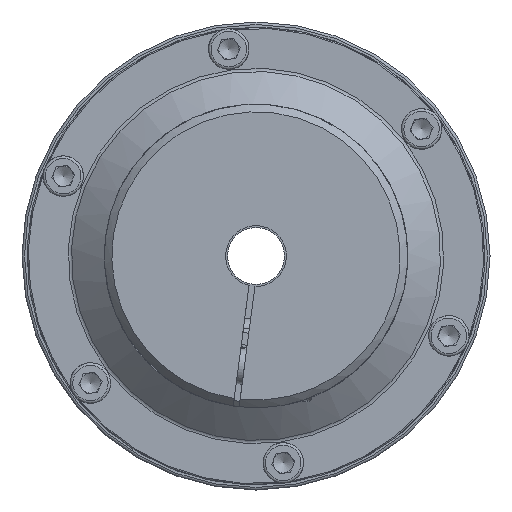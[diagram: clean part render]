
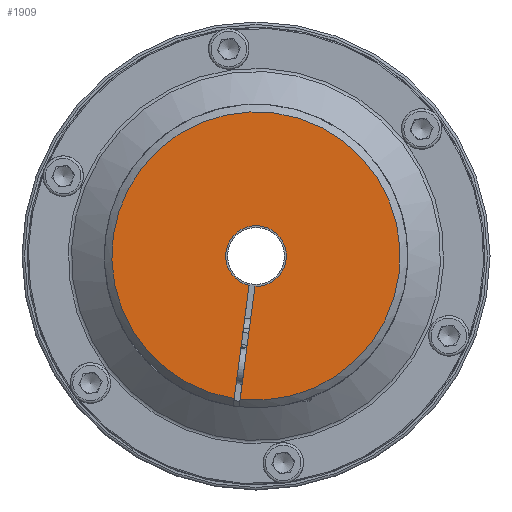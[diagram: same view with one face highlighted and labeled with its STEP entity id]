
A CAD part, left-side view. The second image highlights one B-rep face of the part: STEP entity #1909.
In plain terms, the highlighted planar face has unit normal (-1, 0, 0).
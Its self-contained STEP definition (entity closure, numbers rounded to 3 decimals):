
#1909 = ADVANCED_FACE( '', ( #4106 ), #4107, .T. );
#4106 = FACE_OUTER_BOUND( '', #6646, .T. );
#4107 = PLANE( '', #6647 );
#6646 = EDGE_LOOP( '', ( #12247, #12248, #12249, #12250 ) );
#6647 = AXIS2_PLACEMENT_3D( '', #12251, #12252, #12253 );
#12247 = ORIENTED_EDGE( '', *, *, #13937, .T. );
#12248 = ORIENTED_EDGE( '', *, *, #14207, .T. );
#12249 = ORIENTED_EDGE( '', *, *, #13685, .T. );
#12250 = ORIENTED_EDGE( '', *, *, #14564, .F. );
#12251 = CARTESIAN_POINT( '', ( -77.85, -11.897, -1.566 ) );
#12252 = DIRECTION( '', ( -1., 0., 0. ) );
#12253 = DIRECTION( '', ( 0., 0., 1. ) );
#13685 = EDGE_CURVE( '', #16695, #16696, #16697, .T. );
#13937 = EDGE_CURVE( '', #17053, #17051, #17054, .T. );
#14207 = EDGE_CURVE( '', #17051, #16695, #17430, .T. );
#14564 = EDGE_CURVE( '', #17053, #16696, #17874, .T. );
#16695 = VERTEX_POINT( '', #23930 );
#16696 = VERTEX_POINT( '', #23931 );
#16697 = LINE( '', #23932, #23933 );
#17051 = VERTEX_POINT( '', #25109 );
#17053 = VERTEX_POINT( '', #25112 );
#17054 = LINE( '', #25113, #25114 );
#17430 = CIRCLE( '', #26081, 57. );
#17874 = CIRCLE( '', #27445, 12. );
#23930 = CARTESIAN_POINT( '', ( -77.85, 8.628, -56.343 ) );
#23931 = CARTESIAN_POINT( '', ( -77.85, 2.748, -11.681 ) );
#23932 = CARTESIAN_POINT( '', ( -77.85, 9.236, -60.958 ) );
#23933 = VECTOR( '', #29517, 1000. );
#25109 = CARTESIAN_POINT( '', ( -77.85, 6.29, -56.652 ) );
#25112 = CARTESIAN_POINT( '', ( -77.85, 0.411, -11.993 ) );
#25113 = CARTESIAN_POINT( '', ( -77.85, 0.371, -11.693 ) );
#25114 = VECTOR( '', #29791, 1000. );
#26081 = AXIS2_PLACEMENT_3D( '', #30140, #30141, #30142 );
#27445 = AXIS2_PLACEMENT_3D( '', #30524, #30525, #30526 );
#29517 = DIRECTION( '', ( 0., -0.131, 0.991 ) );
#29791 = DIRECTION( '', ( 0., 0.131, -0.991 ) );
#30140 = CARTESIAN_POINT( '', ( -77.85, 0., 0. ) );
#30141 = DIRECTION( '', ( -1., 0., 0. ) );
#30142 = DIRECTION( '', ( 0., -0.991, -0.131 ) );
#30524 = CARTESIAN_POINT( '', ( -77.85, 0., 0. ) );
#30525 = DIRECTION( '', ( -1., 0., 0. ) );
#30526 = DIRECTION( '', ( 0., -0.991, -0.131 ) );
